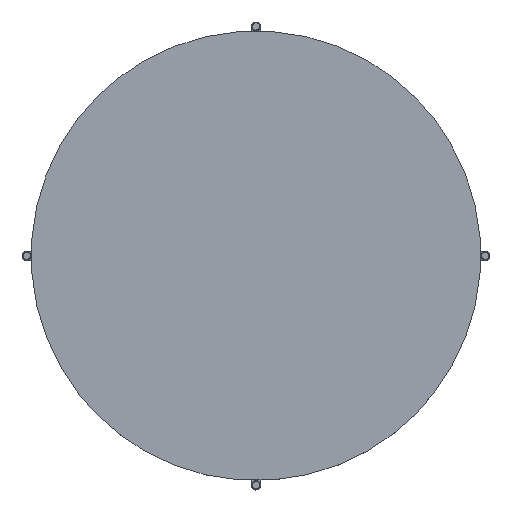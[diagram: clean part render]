
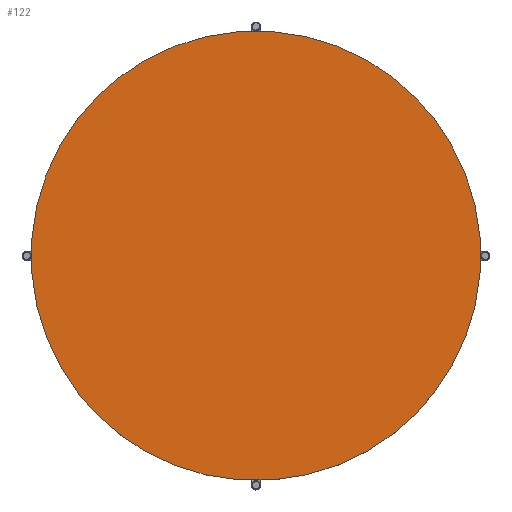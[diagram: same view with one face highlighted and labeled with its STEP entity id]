
A CAD part, top view. The second image highlights one B-rep face of the part: STEP entity #122.
In plain terms, the highlighted planar face has unit normal (0, 0, 1).
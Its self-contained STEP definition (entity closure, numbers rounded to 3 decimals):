
#122=ADVANCED_FACE('',(#170),#575,.T.);
#170=FACE_OUTER_BOUND('',#218,.T.);
#218=EDGE_LOOP('',(#270,#271));
#270=ORIENTED_EDGE('',*,*,#438,.T.);
#271=ORIENTED_EDGE('',*,*,#441,.T.);
#438=EDGE_CURVE('',#523,#525,#635,.T.);
#441=EDGE_CURVE('',#525,#523,#638,.T.);
#523=VERTEX_POINT('',#780);
#525=VERTEX_POINT('',#782);
#575=PLANE('',#696);
#635=(
BOUNDED_CURVE()
B_SPLINE_CURVE(2,(#790,#791,#792,#793,#794),.UNSPECIFIED.,.F.,.F.)
B_SPLINE_CURVE_WITH_KNOTS((3,2,3),(0.,78.54,157.08),
 .UNSPECIFIED.)
CURVE()
GEOMETRIC_REPRESENTATION_ITEM()
RATIONAL_B_SPLINE_CURVE((1.,0.707,1.,0.707,1.))
REPRESENTATION_ITEM('')
);
#638=(
BOUNDED_CURVE()
B_SPLINE_CURVE(2,(#802,#803,#804,#805,#806),.UNSPECIFIED.,.F.,.F.)
B_SPLINE_CURVE_WITH_KNOTS((3,2,3),(157.08,235.619,314.159),
 .UNSPECIFIED.)
CURVE()
GEOMETRIC_REPRESENTATION_ITEM()
RATIONAL_B_SPLINE_CURVE((1.,0.707,1.,0.707,1.))
REPRESENTATION_ITEM('')
);
#696=AXIS2_PLACEMENT_3D('',#768,#722,$);
#722=DIRECTION('',(0.,0.,1.));
#768=CARTESIAN_POINT('',(12152.524,-883.883,268.2));
#780=CARTESIAN_POINT('',(12506.078,353.553,268.2));
#782=CARTESIAN_POINT('',(11798.971,-353.553,268.2));
#790=CARTESIAN_POINT('',(12506.078,353.553,268.2));
#791=CARTESIAN_POINT('',(12152.524,707.107,268.2));
#792=CARTESIAN_POINT('',(11798.971,353.553,268.2));
#793=CARTESIAN_POINT('',(11445.417,0.,268.2));
#794=CARTESIAN_POINT('',(11798.971,-353.553,268.2));
#802=CARTESIAN_POINT('',(11798.971,-353.553,268.2));
#803=CARTESIAN_POINT('',(12152.524,-707.107,268.2));
#804=CARTESIAN_POINT('',(12506.078,-353.553,268.2));
#805=CARTESIAN_POINT('',(12859.631,0.,268.2));
#806=CARTESIAN_POINT('',(12506.078,353.553,268.2));
